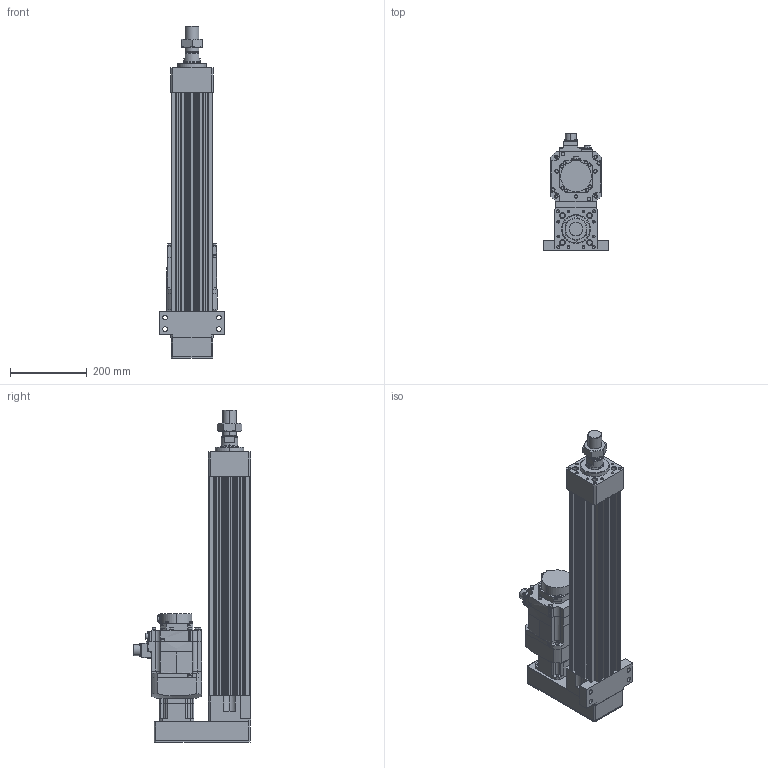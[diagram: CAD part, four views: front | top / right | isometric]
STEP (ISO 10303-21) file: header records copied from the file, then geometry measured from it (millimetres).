
FILE_DESCRIPTION (( 'STEP AP203' ), '1' );
FILE_NAME ('HES110NS(HS)-P400-W010G00-M-FFC.STEP', '2026-06-10T05:54:48', ( 'tms' ), ( '' ), 'SwSTEP 2.0', 'SolidWorks 2013', '' );
FILE_SCHEMA (( 'CONFIG_CONTROL_DESIGN' ));
Length unit declared in the file: millimetre
Products named in the file (8): HES110NS(HS)-P400-W010G00-M-FFC; HES110-P-G90; HG-SR102B; AB0902; AB0901; HES110-M-ROD-400; HES110-FFC-400; M36X1.5P
Assembly tree (7 placements, depth 2):
  HES110NS(HS)-P400-W010G00-M-FFC
    HES110-FFC-400
    HES110-M-ROD-400
    M36X1.5P
    HES110-P-G90
    AB0901
    AB0902
    HG-SR102B
Bounding box: 170 x 304.99 x 863 mm (x, y, z)
Volume: 8283901.6 mm3; surface area: 1081598.5 mm2
Topology: 5 solids, 12 shells, 1191 faces, 3016 edges, 1941 vertices
Faces by surface type: cylinder 566, plane 511, cone 100, bspline 10, torus 4
Entity records: 37824 total; most frequent: CARTESIAN_POINT 7444, DIRECTION 6527, ORIENTED_EDGE 5940, EDGE_CURVE 2980, AXIS2_PLACEMENT_3D 2448, VERTEX_POINT 1941, LINE 1631, VECTOR 1631
